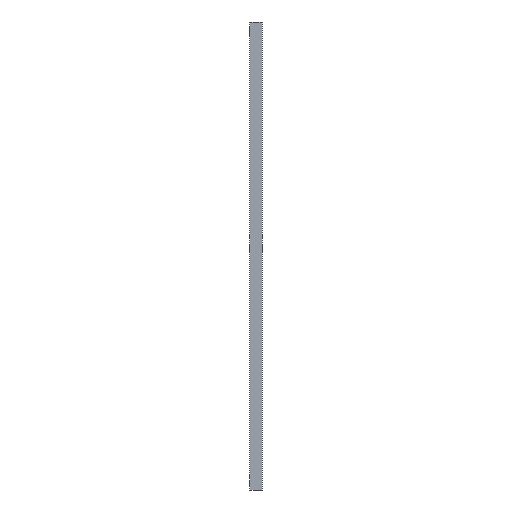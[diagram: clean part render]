
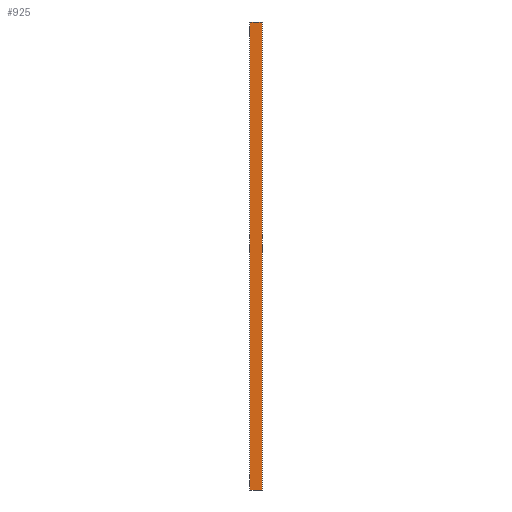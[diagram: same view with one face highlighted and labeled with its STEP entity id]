
A CAD part, left-side view. The second image highlights one B-rep face of the part: STEP entity #925.
In plain terms, the highlighted planar face has unit normal (-1, 0, 0).
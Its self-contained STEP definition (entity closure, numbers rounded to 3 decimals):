
#23 = DIRECTION ( 'NONE',  ( 0., 0., -1. ) ) ;
#29 = CARTESIAN_POINT ( 'NONE',  ( -8., 9.3, 0. ) ) ;
#49 = ORIENTED_EDGE ( 'NONE', *, *, #503, .T. ) ;
#83 = ORIENTED_EDGE ( 'NONE', *, *, #211, .F. ) ;
#90 = VERTEX_POINT ( 'NONE', #1282 ) ;
#99 = VECTOR ( 'NONE', #1112, 1000. ) ;
#111 = CARTESIAN_POINT ( 'NONE',  ( -8., 9.3, 479. ) ) ;
#158 = DIRECTION ( 'NONE',  ( 0., 1., 0. ) ) ;
#167 = VERTEX_POINT ( 'NONE', #1391 ) ;
#195 = PLANE ( 'NONE',  #1295 ) ;
#197 = VERTEX_POINT ( 'NONE', #567 ) ;
#211 = EDGE_CURVE ( 'NONE', #788, #695, #898, .T. ) ;
#232 = LINE ( 'NONE', #237, #380 ) ;
#237 = CARTESIAN_POINT ( 'NONE',  ( -8., 0., 0. ) ) ;
#244 = VECTOR ( 'NONE', #23, 1000. ) ;
#278 = VERTEX_POINT ( 'NONE', #111 ) ;
#317 = CARTESIAN_POINT ( 'NONE',  ( -8., 12.5, 479. ) ) ;
#380 = VECTOR ( 'NONE', #786, 1000. ) ;
#408 = DIRECTION ( 'NONE',  ( 0., 0., 1. ) ) ;
#435 = EDGE_CURVE ( 'NONE', #197, #1399, #1139, .T. ) ;
#497 = EDGE_LOOP ( 'NONE', ( #1337, #1019, #83, #851, #49, #725, #1013, #933 ) ) ;
#503 = EDGE_CURVE ( 'NONE', #167, #278, #711, .T. ) ;
#513 = VECTOR ( 'NONE', #744, 1000. ) ;
#519 = DIRECTION ( 'NONE',  ( 0., 1., 0. ) ) ;
#567 = CARTESIAN_POINT ( 'NONE',  ( -8., 3.2, 0. ) ) ;
#578 = VECTOR ( 'NONE', #1346, 1000. ) ;
#582 = VECTOR ( 'NONE', #519, 1000. ) ;
#583 = CARTESIAN_POINT ( 'NONE',  ( -8., 0., 479. ) ) ;
#598 = EDGE_CURVE ( 'NONE', #197, #695, #232, .T. ) ;
#616 = DIRECTION ( 'NONE',  ( 0., 1., 0. ) ) ;
#618 = DIRECTION ( 'NONE',  ( -1., 0., 0. ) ) ;
#664 = LINE ( 'NONE', #1091, #244 ) ;
#695 = VERTEX_POINT ( 'NONE', #1193 ) ;
#711 = LINE ( 'NONE', #731, #582 ) ;
#725 = ORIENTED_EDGE ( 'NONE', *, *, #1291, .T. ) ;
#731 = CARTESIAN_POINT ( 'NONE',  ( -8., 0., 479. ) ) ;
#732 = EDGE_CURVE ( 'NONE', #90, #937, #664, .T. ) ;
#741 = EDGE_CURVE ( 'NONE', #1399, #937, #818, .T. ) ;
#744 = DIRECTION ( 'NONE',  ( 0., 1., 0. ) ) ;
#786 = DIRECTION ( 'NONE',  ( 0., -1., 0. ) ) ;
#788 = VERTEX_POINT ( 'NONE', #583 ) ;
#818 = LINE ( 'NONE', #1359, #1147 ) ;
#838 = CARTESIAN_POINT ( 'NONE',  ( -8., 0., 0. ) ) ;
#847 = CARTESIAN_POINT ( 'NONE',  ( -8., 12.5, 0. ) ) ;
#851 = ORIENTED_EDGE ( 'NONE', *, *, #1302, .F. ) ;
#861 = LINE ( 'NONE', #317, #513 ) ;
#893 = CARTESIAN_POINT ( 'NONE',  ( -8., 0., 479. ) ) ;
#898 = LINE ( 'NONE', #1097, #99 ) ;
#904 = LINE ( 'NONE', #893, #578 ) ;
#925 = ADVANCED_FACE ( 'NONE', ( #1394 ), #195, .T. ) ;
#933 = ORIENTED_EDGE ( 'NONE', *, *, #741, .F. ) ;
#937 = VERTEX_POINT ( 'NONE', #847 ) ;
#1013 = ORIENTED_EDGE ( 'NONE', *, *, #732, .T. ) ;
#1019 = ORIENTED_EDGE ( 'NONE', *, *, #598, .T. ) ;
#1091 = CARTESIAN_POINT ( 'NONE',  ( -8., 12.5, 479. ) ) ;
#1097 = CARTESIAN_POINT ( 'NONE',  ( -8., 0., 479. ) ) ;
#1112 = DIRECTION ( 'NONE',  ( 0., 0., -1. ) ) ;
#1139 = LINE ( 'NONE', #838, #1172 ) ;
#1147 = VECTOR ( 'NONE', #158, 1000. ) ;
#1172 = VECTOR ( 'NONE', #616, 1000. ) ;
#1193 = CARTESIAN_POINT ( 'NONE',  ( -8., 0., 0. ) ) ;
#1282 = CARTESIAN_POINT ( 'NONE',  ( -8., 12.5, 479. ) ) ;
#1291 = EDGE_CURVE ( 'NONE', #278, #90, #861, .T. ) ;
#1295 = AXIS2_PLACEMENT_3D ( 'NONE', #1389, #618, #408 ) ;
#1302 = EDGE_CURVE ( 'NONE', #167, #788, #904, .T. ) ;
#1337 = ORIENTED_EDGE ( 'NONE', *, *, #435, .F. ) ;
#1346 = DIRECTION ( 'NONE',  ( 0., -1., 0. ) ) ;
#1359 = CARTESIAN_POINT ( 'NONE',  ( -8., 0., 0. ) ) ;
#1389 = CARTESIAN_POINT ( 'NONE',  ( -8., 0., 479. ) ) ;
#1391 = CARTESIAN_POINT ( 'NONE',  ( -8., 3.2, 479. ) ) ;
#1394 = FACE_OUTER_BOUND ( 'NONE', #497, .T. ) ;
#1399 = VERTEX_POINT ( 'NONE', #29 ) ;
